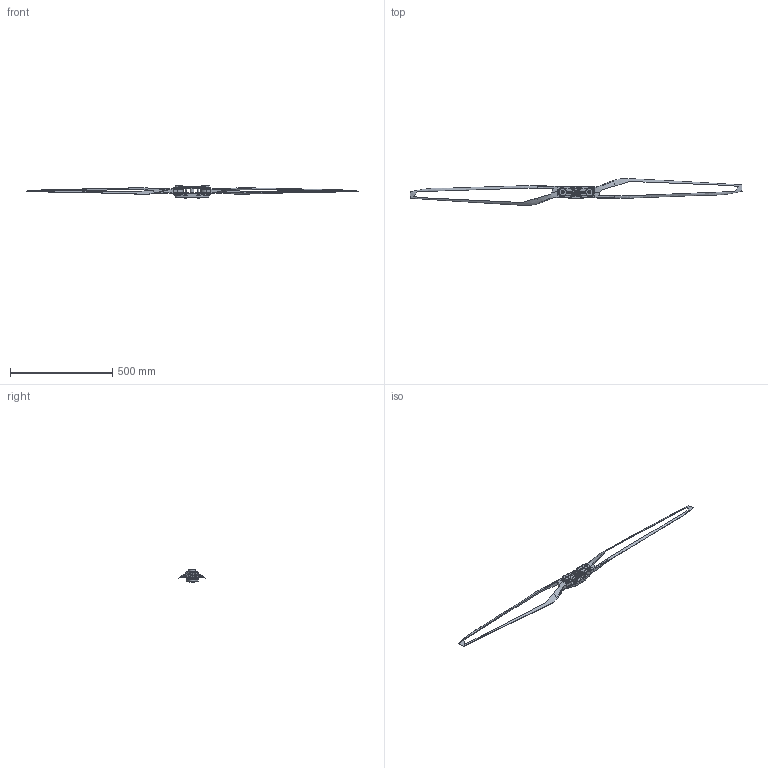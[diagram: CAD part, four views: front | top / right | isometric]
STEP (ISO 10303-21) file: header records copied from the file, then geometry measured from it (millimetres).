
FILE_DESCRIPTION (( 'STEP AP214' ), '1' );
FILE_NAME ('EFZ63.STEP', '2026-03-17T07:32:58', ( '' ), ( '' ), 'SwSTEP 2.0', 'SolidWorks 2022', '' );
FILE_SCHEMA (( 'AUTOMOTIVE_DESIGN' ));
Length unit declared in the file: millimetre
Products named in the file (1): EFZ63
Bounding box: 1625.99 x 132.99 x 59.79 mm (x, y, z)
Volume: 517528.9 mm3; surface area: 206005.3 mm2
Topology: 18 solids, 18 shells, 1020 faces, 2648 edges, 1683 vertices
Faces by surface type: plane 461, cylinder 396, cone 102, torus 35, bspline 26
Entity records: 87181 total; most frequent: CARTESIAN_POINT 50348, DIRECTION 5404, ORIENTED_EDGE 5276, EDGE_CURVE 2638, AXIS2_PLACEMENT_3D 1947, VERTEX_POINT 1683, LINE 1510, VECTOR 1510
